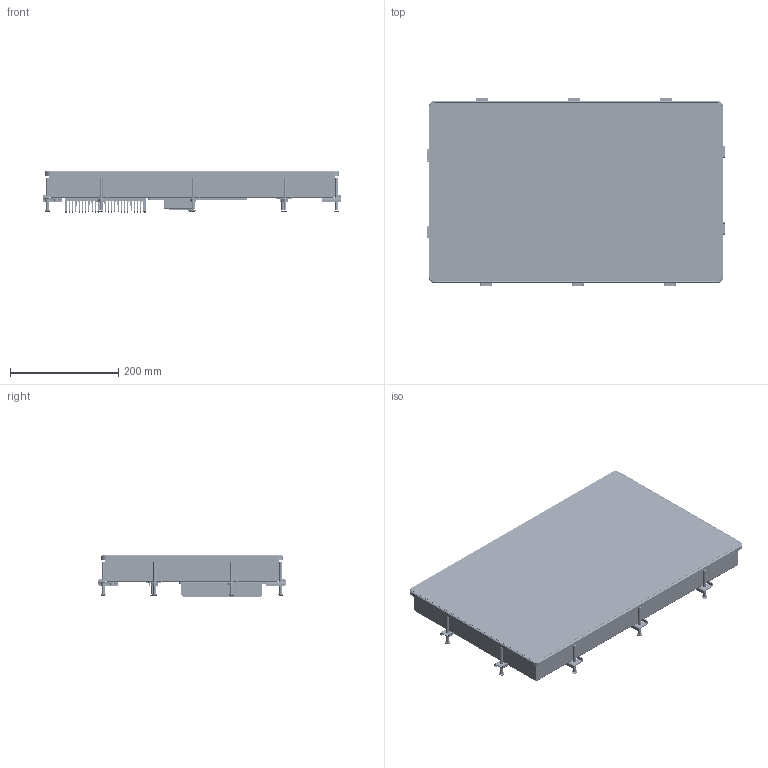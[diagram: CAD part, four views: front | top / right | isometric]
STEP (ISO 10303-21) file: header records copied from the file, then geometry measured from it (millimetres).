
FILE_DESCRIPTION(/* description */ (''),/* implementation_level */ '2;1');
FILE_NAME(/* name */ 'D:\Modelle vereinfacht\notion.D\21 Zoll\778-41966-00\778-41966-00_.EXTERN.stp',/* time_stamp */ '2023-07-14T11:55:20+02:00',/* author */ ('Blessing'),/* organization */ (''),/* preprocessor_version */ 'ST-DEVELOPER v18.1',/* originating_system */ 'Autodesk Inventor 2021',/* authorisation */ '');
FILE_SCHEMA (('AUTOMOTIVE_DESIGN { 1 0 10303 214 3 1 1 }'));
Products named in the file (4): Baugruppe2; 778-41966-00_EXTERN; 778-90058-02; 778-90106-01_Extern
Assembly tree (3 placements, depth 2):
  Baugruppe2
    778-41966-00_EXTERN
    778-90058-02
    778-90106-01_Extern
Bounding box: 553 x 346 x 76.7 mm (x, y, z)
Volume: 8015725.5 mm3; surface area: 1113135.2 mm2
Topology: 14 solids, 86 shells, 13763 faces, 37744 edges, 24300 vertices
Faces by surface type: plane 8559, cylinder 3312, bspline 1146, cone 580, torus 97, sphere 69
Full cylindrical faces by diameter (mm): 0.4 x9, 0.457 x1, 0.5 x16, 0.6 x3, 0.65 x8, 0.8 x1, 0.95 x8, 1.1 x2, 1.2 x3, 2.156 x2, 2.459 x20, 2.5 x2, 2.794 x2, 2.8 x6, 2.9 x2, 2.91 x6, 3 x22, 3.01 x4, 3.15 x2, 3.2 x2, 3.242 x10, 3.5 x24, 3.8 x2, 4 x26, 4.1 x2, 4.22 x10, 4.3 x20, 4.5 x8, 4.7 x2, 4.8 x2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
Entity records: 482140 total; most frequent: CARTESIAN_POINT 124923, ORIENTED_EDGE 75178, DIRECTION 65626, EDGE_CURVE 37662, LINE 26656, VECTOR 26656, VERTEX_POINT 24300, AXIS2_PLACEMENT_3D 19485
